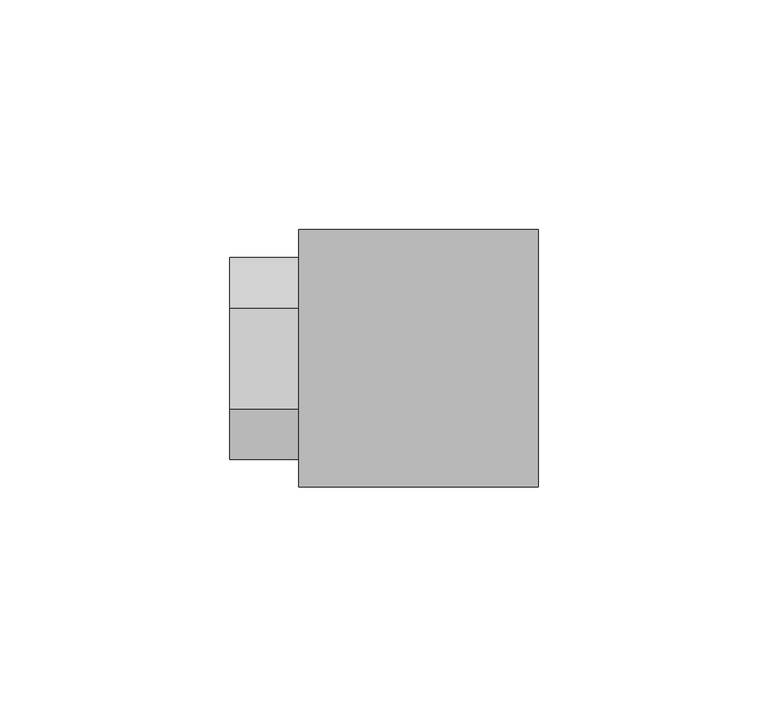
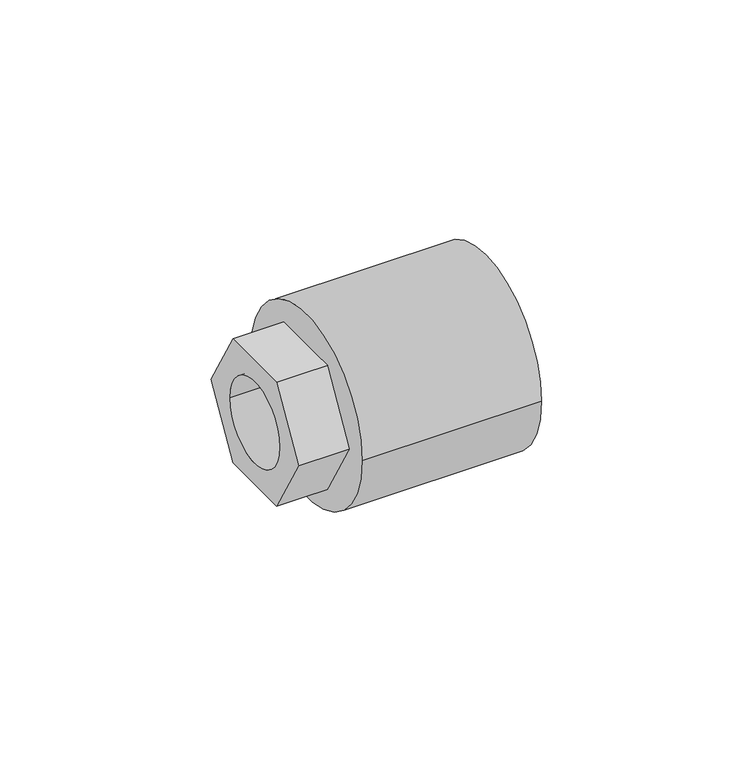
"""IFC4 building model written with IfcOpenShell, lengths in millimetres: pipe fitting geometry, NIRON RED termofusion roscado enlace rosca hembra hexagonal : Estándar."""

import ifcopenshell
import ifcopenshell.guid

model = None  # the IFC model being written
_history = None  # IfcOwnerHistory: only IFC2X3 demands one
_inside = {}  # id of a spatial element -> (the spatial element, [elements in it])
_under = {}  # id of a project, library or spatial element -> (it, [spatial elements below it])
_declared = {}  # id of a project -> (the project, [libraries it declares])
_typed = {}  # id of a type object -> (the type object, [elements of that type])
_made_of = {}  # id of a material, layer set ... -> (it, [elements and type objects made of it])


def new_model(schema):
    """Start an empty IFC model of exactly this schema.

    Asked for "IFC4X3", IfcOpenShell would pick the latest addendum, in which some entities
    have other attributes; the version numbers below select the first issue.
    IFC2X3 requires an IfcOwnerHistory on every rooted entity: one is made here for all.
    """
    global model, _history
    if schema == "IFC4X3":
        model = ifcopenshell.file(schema_version=(4, 3, 0, 0))
    else:
        model = ifcopenshell.file(schema=schema)
    _inside.clear()
    _under.clear()
    _declared.clear()
    _typed.clear()
    _made_of.clear()
    _history = None
    if model.schema == "IFC2X3":
        org = make("IfcOrganization", Name="unknown")
        user = make(
            "IfcPersonAndOrganization",
            ThePerson=make("IfcPerson", FamilyName="unknown"),
            TheOrganization=org,
        )
        app = make(
            "IfcApplication",
            ApplicationDeveloper=org,
            Version="unknown",
            ApplicationFullName="unknown",
            ApplicationIdentifier="unknown",
        )
        _history = make(
            "IfcOwnerHistory",
            OwningUser=user,
            OwningApplication=app,
            ChangeAction="ADDED",
            CreationDate=0,
        )
    return model


def make(cls, **values):
    """One entity of the class cls with the attributes given. An attribute that is None is left unset."""
    return model.create_entity(
        cls, **{name: value for name, value in values.items() if value is not None}
    )


def rooted(cls, **values):
    """An entity with a GlobalId (a new one), such as an element, a storey or a relation."""
    return make(cls, GlobalId=ifcopenshell.guid.new(), OwnerHistory=_history, **values)


def si_unit(unit_type, name, prefix=None):
    """IfcSIUnit, for example si_unit("LENGTHUNIT", "METRE", prefix="MILLI")."""
    return make("IfcSIUnit", UnitType=unit_type, Prefix=prefix, Name=name)


def assignment(units):
    """IfcUnitAssignment: the units of a project."""
    return None if units is None else make("IfcUnitAssignment", Units=units)


def point(xyz):
    """IfcCartesianPoint."""
    return None if xyz is None else make("IfcCartesianPoint", Coordinates=xyz)


def direction(xyz):
    """IfcDirection."""
    return None if xyz is None else make("IfcDirection", DirectionRatios=xyz)


def frame(location, z_axis=None, x_axis=None):
    """IfcAxis2Placement3D, a coordinate frame: its origin and axes. An axis left out is left unset."""
    return make(
        "IfcAxis2Placement3D",
        Location=point(location),
        Axis=direction(z_axis),
        RefDirection=direction(x_axis),
    )


def origin():
    """The frame at (0, 0, 0) with its axes left unset."""
    return frame((0.0, 0.0, 0.0))


def place(relative_to, where):
    """IfcLocalPlacement: puts the frame where relative to a parent placement (None: the world)."""
    return make(
        "IfcLocalPlacement", PlacementRelTo=relative_to, RelativePlacement=where
    )


def context(
    kind, dimensions, precision=None, world=None, true_north=None, identifier=None
):
    """IfcGeometricRepresentationContext, for example the 3D "Model" context."""
    return make(
        "IfcGeometricRepresentationContext",
        ContextIdentifier=identifier,
        ContextType=kind,
        CoordinateSpaceDimension=dimensions,
        Precision=precision,
        WorldCoordinateSystem=world,
        TrueNorth=true_north,
    )


def project(units=None, contexts=None):
    """IfcProject with its units and contexts."""
    return rooted(
        "IfcProject",
        Name="project",
        RepresentationContexts=contexts,
        UnitsInContext=assignment(units),
    )


def spatial(cls, under=None, at=None, **own):
    """A site, building, storey or space (cls), placed at a placement, below another one or the project."""
    s = rooted(cls, ObjectPlacement=at, **own)
    if under is not None:
        _under.setdefault(under.id(), (under, []))[1].append(s)
    return s


def polyline(points):
    """IfcPolyline through the points."""
    return make("IfcPolyline", Points=[point(p) for p in points])


def circle_curve(where, radius):
    """IfcCircle in the frame where."""
    return make("IfcCircle", Position=where, Radius=radius)


def shape(context_of_items, identifier, shape_type, items):
    """IfcShapeRepresentation: the items that make up one representation, for example the "Body"."""
    return make(
        "IfcShapeRepresentation",
        ContextOfItems=context_of_items,
        RepresentationIdentifier=identifier,
        RepresentationType=shape_type,
        Items=items,
    )


def source(mapping_origin, context_of_items, identifier, shape_type, items):
    """IfcRepresentationMap: a shape defined once, which mapped items show again and again."""
    return make(
        "IfcRepresentationMap",
        MappingOrigin=mapping_origin,
        MappedRepresentation=shape(context_of_items, identifier, shape_type, items),
    )


def transform(
    local_origin,
    x_axis=None,
    y_axis=None,
    z_axis=None,
    scale=None,
    scale2=None,
    scale3=None,
    uniform=True,
):
    """IfcCartesianTransformationOperator3D, or its non-uniform kind. x_axis, y_axis, z_axis: its Axis1, 2, 3."""
    if uniform:
        return make(
            "IfcCartesianTransformationOperator3D",
            Axis1=direction(x_axis),
            Axis2=direction(y_axis),
            LocalOrigin=point(local_origin),
            Scale=scale,
            Axis3=direction(z_axis),
        )
    return make(
        "IfcCartesianTransformationOperator3DnonUniform",
        Axis1=direction(x_axis),
        Axis2=direction(y_axis),
        LocalOrigin=point(local_origin),
        Scale=scale,
        Axis3=direction(z_axis),
        Scale2=scale2,
        Scale3=scale3,
    )


def mapped(mapping_source, mapping_target):
    """IfcMappedItem: shows the shape of a source again, moved by a transform."""
    return make(
        "IfcMappedItem", MappingSource=mapping_source, MappingTarget=mapping_target
    )


def made_of(thing, what):
    """Note that an element or type object is made of a material, layer set ...; save() writes the relation."""
    if what is not None:
        _made_of.setdefault(what.id(), (what, []))[1].append(thing)
    return thing


def element(
    cls,
    number,
    at=None,
    inside=None,
    cuts=None,
    type_object=None,
    material=None,
    context=None,
    identifier="Body",
    shape_type=None,
    held_by="IfcProductDefinitionShape",
    body=None,
    shapes=None,
    **own,
):
    """One element of the class cls, such as IfcWall. Its Tag is "e" and its number.

    at: its placement. inside: the storey or other place that contains it. cuts: it is an
    opening in that element (IfcRelVoidsElement). A single representation is given by context,
    identifier, shape_type and body (its items); several are given by shapes. held_by: the class
    of the entity that holds the representations. save() writes the other relations.
    """
    e = rooted(cls, Tag="e%d" % number, ObjectPlacement=at, **own)
    if body is not None:
        shapes = [shape(context, identifier, shape_type, body)]
    if shapes is not None:
        e.Representation = make(held_by, Representations=shapes)
    if inside is not None:
        _inside.setdefault(inside.id(), (inside, []))[1].append(e)
    if cuts is not None:
        rooted(
            "IfcRelVoidsElement", RelatingBuildingElement=cuts, RelatedOpeningElement=e
        )
    if type_object is not None:
        _typed.setdefault(type_object.id(), (type_object, []))[1].append(e)
    return made_of(e, material)


def aggregate(whole, parts):
    """IfcRelAggregates: a whole, such as a stair, and the parts it consists of."""
    return rooted("IfcRelAggregates", RelatingObject=whole, RelatedObjects=parts)


def save(model, path):
    """Write the relations noted so far, then the file.

    IfcRelAggregates (storeys below a building ...), IfcRelContainedInSpatialStructure (elements
    in a storey), IfcRelDefinesByType, IfcRelAssociatesMaterial and IfcRelDeclares: one each for
    every whole, place, type object, material and project.
    """
    for whole, parts in _under.values():
        aggregate(whole, parts)
    for where, things in _inside.values():
        rooted(
            "IfcRelContainedInSpatialStructure",
            RelatedElements=things,
            RelatingStructure=where,
        )
    for kind, things in _typed.values():
        rooted("IfcRelDefinesByType", RelatedObjects=things, RelatingType=kind)
    for what, things in _made_of.values():
        rooted("IfcRelAssociatesMaterial", RelatedObjects=things, RelatingMaterial=what)
    for by, libraries in _declared.values():
        rooted("IfcRelDeclares", RelatingContext=by, RelatedDefinitions=libraries)
    model.write(path)


def plane_surface(at):
    """IfcPlane: the flat surface through the origin of the frame at, square to its z axis."""
    return make("IfcPlane", Position=at)


def cylinder_surface(at, radius):
    """IfcCylindricalSurface: all points at the distance radius from the z axis of the frame at."""
    return make("IfcCylindricalSurface", Position=at, Radius=radius)


def revolved_surface(curve, axis_point, axis_direction):
    """IfcSurfaceOfRevolution: the curve turned about the line through axis_point along axis_direction."""
    return make(
        "IfcSurfaceOfRevolution",
        SweptCurve=make("IfcArbitraryOpenProfileDef", ProfileType="CURVE", Curve=curve),
        AxisPosition=make("IfcAxis1Placement", Location=point(axis_point), Axis=direction(axis_direction)),
    )


def advanced_brep(points, edges, surfaces, faces):
    """IfcAdvancedBrep: a solid bounded by faces that lie on surfaces and meet in shared edges.

    An edge is (start, end): straight between two places in points (the first is 0);
    or (start, end, curve); or (start, end, curve, False) where it runs against its curve.
    A face is (place in surfaces, loops), or (place, loops, False) where it looks against
    its surface's normal. A loop lists edges by number (the first is 1), with a minus sign
    where the edge is run from its end to its start. The first loop is the outer one.
    """
    corners = [point(p) for p in points]
    vertices = [make("IfcVertexPoint", VertexGeometry=c) for c in corners]
    made = []
    for start, end, *more in edges:
        made.append(
            make(
                "IfcEdgeCurve",
                EdgeStart=vertices[start],
                EdgeEnd=vertices[end],
                EdgeGeometry=more[0] if more else make("IfcPolyline", Points=[corners[start], corners[end]]),
                SameSense=more[1] if len(more) > 1 else True,
            )
        )
    hull = []
    for where, loops, *sense in faces:
        bounds = []
        for j, loop in enumerate(loops):
            ring = [make("IfcOrientedEdge", EdgeElement=made[abs(k) - 1], Orientation=k > 0) for k in loop]
            bounds.append(
                make(
                    "IfcFaceOuterBound" if j == 0 else "IfcFaceBound",
                    Bound=make("IfcEdgeLoop", EdgeList=ring),
                    Orientation=True,
                )
            )
        hull.append(make("IfcAdvancedFace", Bounds=bounds, FaceSurface=surfaces[where], SameSense=sense[0] if sense else True))
    return make("IfcAdvancedBrep", Outer=make("IfcClosedShell", CfsFaces=hull))


def pipe_fitting_bd3321b4(model_context):
    return source(origin(), model_context, "Body", "AdvancedBrep", [
        advanced_brep(
        [(67.0, 28.0, 0.0), (67.0, -28.0, 0.0), (15.0, 28.0, 0.0), (15.0, -28.0, 0.0), (15.0, -12.5, 0.0), (15.0, 12.5, 0.0), (18.0, 12.5, 0.0), (18.0, -12.5, 0.0)],
        [
            (0, 1, circle_curve(frame((67.0, 0.0, 0.0), z_axis=(1.0, 0.0, 0.0), x_axis=(0.0, -1.0, 0.0)), 28.0)),
            (1, 0, circle_curve(frame((67.0, 0.0, 0.0), z_axis=(1.0, 0.0, 0.0), x_axis=(0.0, -1.0, 0.0)), 28.0)),
            (2, 3, circle_curve(frame((15.0, 0.0, 0.0), z_axis=(-1.0, 0.0, 0.0), x_axis=(0.0, -1.0, 0.0)), 28.0)),
            (3, 2, circle_curve(frame((15.0, 0.0, 0.0), z_axis=(-1.0, 0.0, 0.0), x_axis=(0.0, -1.0, 0.0)), 28.0)),
            (4, 5, circle_curve(frame((15.0, 0.0, 0.0), z_axis=(1.0, 0.0, 0.0), x_axis=(0.0, -1.0, 0.0)), 12.5)),
            (5, 4, circle_curve(frame((15.0, 0.0, 0.0), z_axis=(1.0, 0.0, 0.0), x_axis=(0.0, -1.0, 0.0)), 12.5)),
            (1, 3),
            (2, 0),
            (6, 7, circle_curve(frame((18.0, 0.0, 0.0), z_axis=(-1.0, 0.0, 0.0), x_axis=(0.0, -1.0, 0.0)), 12.5)),
            (7, 6, circle_curve(frame((18.0, 0.0, 0.0), z_axis=(-1.0, 0.0, 0.0), x_axis=(0.0, -1.0, 0.0)), 12.5)),
            (6, 5),
            (4, 7),
        ],
        [
            plane_surface(frame((67.0, -28.0, 0.0), z_axis=(1.0, 0.0, 0.0), x_axis=(0.0, 0.0, -1.0))),
            plane_surface(frame((15.0, -28.0, 0.0), z_axis=(-1.0, 0.0, 0.0), x_axis=(0.0, 0.0, 1.0))),
            cylinder_surface(frame((67.0, 0.0, 0.0), z_axis=(-1.0, 0.0, 0.0), x_axis=(0.0, -1.0, 0.0)), 28.0),
            plane_surface(frame((18.0, -12.5, 0.0), z_axis=(-1.0, 0.0, 0.0), x_axis=(0.0, 0.0, -1.0))),
            revolved_surface(polyline([(15.0, -12.5, 0.0), (18.0, -12.5, 0.0)]), (18.0, 0.0, 0.0), (-1.0, 0.0, 0.0)),
        ],
        [
            (0, [[1, 2]]),
            (1, [[3, 4], [5, 6]]),
            (2, [[-2, 7, -3, 8]]),
            (2, [[-1, -8, -4, -7]]),
            (3, [[9, 10]]),
            (4, [[-9, 11, -5, 12]]),
            (4, [[-10, -12, -6, -11]]),
        ],
    ),
        advanced_brep(
        [(45.0, -10.9696551, -19.0), (45.0, 10.9696551, -19.0), (45.0, 21.9393102, 0.0), (45.0, 10.9696551, 19.0), (45.0, -10.9696551, 19.0), (45.0, -21.9393102, 0.0), (0.0, -10.9696551, -19.0), (0.0, -21.9393102, 0.0), (0.0, -10.9696551, 19.0), (0.0, 10.9696551, 19.0), (0.0, 21.9393102, 0.0), (0.0, 10.9696551, -19.0), (0.0, -12.5, 0.0), (0.0, 12.5, 0.0), (18.0, 12.5, 0.0), (18.0, -12.5, 0.0)],
        [
            (0, 1),
            (1, 2),
            (2, 3),
            (3, 4),
            (4, 5),
            (5, 0),
            (6, 7),
            (7, 8),
            (8, 9),
            (9, 10),
            (10, 11),
            (11, 6),
            (12, 13, circle_curve(frame((0.0, 0.0, 0.0), z_axis=(1.0, 0.0, 0.0), x_axis=(0.0, -1.0, 0.0)), 12.5)),
            (13, 12, circle_curve(frame((0.0, 0.0, 0.0), z_axis=(1.0, 0.0, 0.0), x_axis=(0.0, -1.0, 0.0)), 12.5)),
            (0, 6),
            (11, 1),
            (10, 2),
            (9, 3),
            (8, 4),
            (7, 5),
            (14, 15, circle_curve(frame((18.0, 0.0, 0.0), z_axis=(-1.0, 0.0, 0.0), x_axis=(0.0, -1.0, 0.0)), 12.5)),
            (15, 14, circle_curve(frame((18.0, 0.0, 0.0), z_axis=(-1.0, 0.0, 0.0), x_axis=(0.0, -1.0, 0.0)), 12.5)),
            (14, 13),
            (12, 15),
        ],
        [
            plane_surface(frame((45.0, 0.0, 0.0), z_axis=(1.0, 0.0, 0.0), x_axis=(0.0, 0.0, 1.0))),
            plane_surface(frame((0.0, 0.0, 0.0), z_axis=(-1.0, 0.0, 0.0), x_axis=(0.0, 0.0, 1.0))),
            plane_surface(frame((45.0, -10.9696551, -19.0), z_axis=(0.0, 0.0, -1.0), x_axis=(-1.0, 0.0, 0.0))),
            plane_surface(frame((45.0, 10.9696551, -19.0), z_axis=(0.0, 0.8660254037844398, -0.49999999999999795), x_axis=(-1.0, 0.0, 0.0))),
            plane_surface(frame((45.0, 21.9393102, 0.0), z_axis=(0.0, 0.866025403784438, 0.500000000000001), x_axis=(-1.0, 0.0, 0.0))),
            plane_surface(frame((45.0, 10.9696551, 19.0), z_axis=(0.0, 0.0, 1.0), x_axis=(-1.0, 0.0, 0.0))),
            plane_surface(frame((45.0, -10.9696551, 19.0), z_axis=(0.0, -0.8660254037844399, 0.49999999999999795), x_axis=(-1.0, 0.0, 0.0))),
            plane_surface(frame((45.0, -21.9393102, 0.0), z_axis=(0.0, -0.8660254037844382, -0.500000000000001), x_axis=(-1.0, 0.0, 0.0))),
            plane_surface(frame((18.0, -12.5, 0.0), z_axis=(-1.0, 0.0, 0.0), x_axis=(0.0, 0.0, -1.0))),
            revolved_surface(polyline([(0.0, -12.5, 0.0), (18.0, -12.5, 0.0)]), (18.0, 0.0, 0.0), (-1.0, 0.0, 0.0)),
        ],
        [
            (0, [[1, 2, 3, 4, 5, 6]]),
            (1, [[7, 8, 9, 10, 11, 12], [13, 14]]),
            (2, [[-1, 15, -12, 16]]),
            (3, [[-2, -16, -11, 17]]),
            (4, [[-3, -17, -10, 18]]),
            (5, [[-4, -18, -9, 19]]),
            (6, [[-5, -19, -8, 20]]),
            (7, [[-6, -20, -7, -15]]),
            (8, [[21, 22]]),
            (9, [[-21, 23, -13, 24]]),
            (9, [[-22, -24, -14, -23]]),
        ],
    ),
    ])


if __name__ == "__main__":
    model = new_model("IFC4")
    model_context = context("Model", 3, world=origin())
    ifc_project = project(units=[si_unit("LENGTHUNIT", "METRE", prefix="MILLI")], contexts=[model_context])
    site = spatial("IfcSite", under=ifc_project)
    building = spatial("IfcBuilding", under=site)
    placement = place(None, origin())
    pipe_fitting_shape = pipe_fitting_bd3321b4(model_context)
    element("IfcPipeFitting", 1, ObjectType="NIRON RED termofusion roscado enlace rosca hembra hexagonal : Estándar", at=placement, inside=building, context=model_context, shape_type="MappedRepresentation", body=[
        mapped(pipe_fitting_shape, transform((0.0, 0.0, 0.0), x_axis=(1.0, 0.0, 0.0), y_axis=(0.0, 1.0, 0.0), z_axis=(0.0, 0.0, 1.0))),
    ])
    save(model, "model.ifc")
